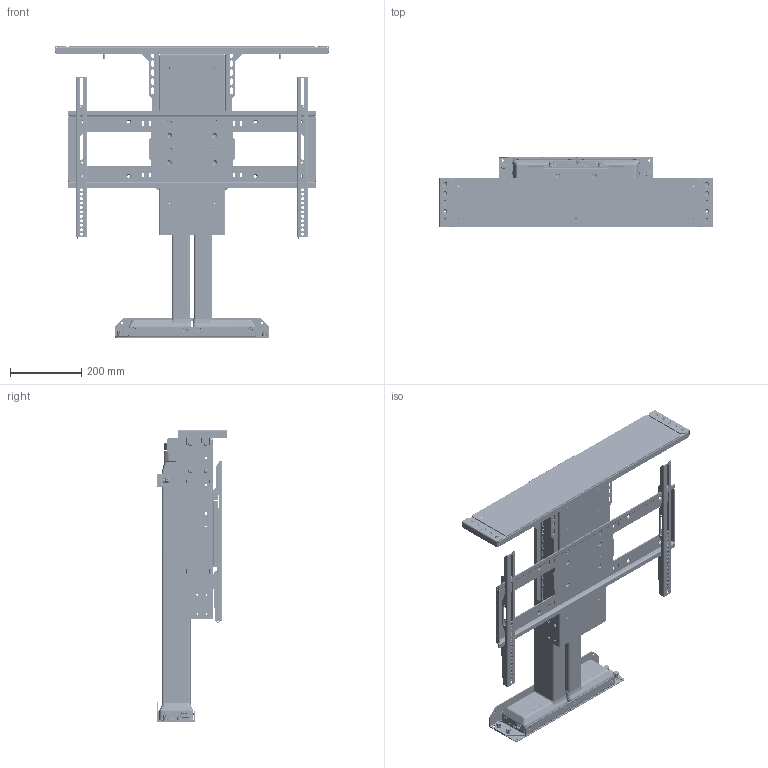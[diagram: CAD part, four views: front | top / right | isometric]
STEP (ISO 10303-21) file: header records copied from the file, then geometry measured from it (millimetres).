
FILE_DESCRIPTION(/* description */ ('STEP AP242','CAx-IF Rec.Pracs.---Representation and Presentation of Product Manufacturing Information (PMI)---4.0---2014-10-13','CAx-IF Rec.Pracs.---3D Tessellated Geometry---0.4---2014-09-14','2;1'),/* implementation_level */ '2;1');
FILE_NAME(/* name */ '65523b989b98ac61b84e0b72',/* time_stamp */ '2023-11-13T15:07:08Z',/* author */ (''),/* organization */ (''),/* preprocessor_version */ 'ST-DEVELOPER v19.4',/* originating_system */ ' ',/* authorisation */ ' ');
FILE_SCHEMA (('AP242_MANAGED_MODEL_BASED_3D_ENGINEERING_MIM_LF { 1 0 10303 442 1 1 4 }'));
Products named in the file (85): DL-65s (HD); ULS-NX-029 - HD Column Clamp; Hex socket countersunk head screw M6x1 x 12; Socket button head screw M6x1 x 12; WDS8151-215; Socket button head screw M6x1 x 16; L65 PS Adapter; ULS-NX-032 - HD Quick Release LC Mount; Lift Column H <2>; L45 LC Inner Profile; L45 LC Motor Housing; L45 LC Middle Profile; Lift Column H <1>; SBP & VMB <1>; ULS-NX-017 - UL SCREEN BACK PLATE; PZ Pan head screw M5x0.80 x 25; ULS-NX-118 - UL VMB WELDMENT <1>; VMB Washer; 90107A012; PEM BSO-632-10  ZI; ULS-NX-020 - UL SCREEN LOCK; ULS-NX-019 - UL LEVEL ADJUSTMENT PLATE; Socket button head cap screw #6-32 x 0.188; ULS-NX-018 - UL VERICAL MOUNTING BAR; ULS-NX-118 - UL VMB WELDMENT <2>; ULS-NX-030 - HD REAR SUPPORT w/ PEMs <1>; PEM FHS-M6-12  ; ULS-NX-030 - HD Rear Support; ULS-NX-031 - HD QUICK RELEASE BASE MOUNT w/ PEMS <1>; ULS-NX-031 - HD QUICK RELEASE BASE MOUNT; L-65 HD Lid Plate Assembly w/ Lid Supports <1>; ULS-NX-039 - ULS HD LID SUPPORT w/ PEMs <1>; PEM CLS-M6-00  ; ULS-NX-039 -- ULS HD LID SUPPORT; ULS-NX-039 - ULS HD LID SUPPORT w/ PEMs <2>; L-65 HD Lid Plate Assembly w/ Lid Adapter <1>; PEM FH-M6-18  ZI; PEM S-M6-1  ZI; Hex socket countersunk head screw M6x1 x 10; Plain washer extra large grade C M6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
Assembly tree (248 placements, depth 5):
  DL-65s (HD)
    ULS-NX-029 - HD Column Clamp
    Hex socket countersunk head screw M6x1 x 12  x17
    Socket button head screw M6x1 x 12  x8
    WDS8151-215  x6
    Socket button head screw M6x1 x 16  x4
    L65 PS Adapter
    ULS-NX-032 - HD Quick Release LC Mount
    Lift Column H <2>
      L45 LC Inner Profile
      L45 LC Motor Housing
      L45 LC Middle Profile
    Lift Column H <1>
      L45 LC Middle Profile
      L45 LC Motor Housing
      L45 LC Inner Profile
    SBP & VMB <1>
      ULS-NX-017 - UL SCREEN BACK PLATE
      PZ Pan head screw M5x0.80 x 25  x2
      ULS-NX-118 - UL VMB WELDMENT <1>
        VMB Washer  x4
        90107A012  x2
        PEM BSO-632-10  ZI  x2
        ULS-NX-020 - UL SCREEN LOCK
        ULS-NX-019 - UL LEVEL ADJUSTMENT PLATE
        Socket button head cap screw #6-32 x 0.188  x2
        ULS-NX-018 - UL VERICAL MOUNTING BAR
      ULS-NX-118 - UL VMB WELDMENT <2>
        PEM BSO-632-10  ZI  x2
        ULS-NX-019 - UL LEVEL ADJUSTMENT PLATE
        VMB Washer  x4
        Socket button head cap screw #6-32 x 0.188  x2
        90107A012  x2
        ULS-NX-020 - UL SCREEN LOCK
        ULS-NX-018 - UL VERICAL MOUNTING BAR
    ULS-NX-030 - HD REAR SUPPORT w/ PEMs <1>
      PEM FHS-M6-12    x2
      ULS-NX-030 - HD Rear Support
    ULS-NX-031 - HD QUICK RELEASE BASE MOUNT w/ PEMS <1>
      PEM FHS-M6-12    x4
      ULS-NX-031 - HD QUICK RELEASE BASE MOUNT
    L-65 HD Lid Plate Assembly w/ Lid Supports <1>
      Hex socket countersunk head screw M6x1 x 12  x4
      ULS-NX-039 - ULS HD LID SUPPORT w/ PEMs <1>
        PEM CLS-M6-00    x2
        ULS-NX-039 -- ULS HD LID SUPPORT
      ULS-NX-039 - ULS HD LID SUPPORT w/ PEMs <2>
        PEM CLS-M6-00    x2
        ULS-NX-039 -- ULS HD LID SUPPORT
      L-65 HD Lid Plate Assembly w/ Lid Adapter <1>
        PEM FH-M6-18  ZI  x4
        PEM S-M6-1  ZI  x6
        Hex socket countersunk head screw M6x1 x 10  x4
        Plain washer extra large grade C M6  x4
        97069A106_Zinc-Plated Steel Spring Lock Washer  x4
        Hex thin nut grade A & B M6  x4
        L-85 TOP PLATE EXTENSION REV B (L85-LM-057)  x2
        NEX-LM-032 -- LID PIN GUIDE  x2
        L-85 TOP PLATE REV C (L85-LM-056)
        L85-LM-058 - Lid Adapter Plate Rev F <1>
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Bounding box: 768.1 x 198.85 x 820.61 mm (x, y, z)
Volume: 17200478.1 mm3; surface area: 3134096.7 mm2
Topology: 232 solids, 232 shells, 12524 faces, 32600 edges, 20993 vertices
Faces by surface type: plane 7418, cylinder 3083, cone 1032, bspline 619, torus 314, sphere 58
Full cylindrical faces by diameter (mm): 1.194 x2, 1.208 x1, 1.473 x3, 1.552 x1, 1.575 x2, 1.6 x2, 1.956 x8, 2.235 x1, 2.642 x4, 2.794 x1, 3.048 x2, 3.175 x1, 3.505 x7, 3.683 x1, 4 x8, 4.496 x6, 4.6 x4, 4.75 x1, 4.917 x56, 5 x46, 5.026 x4, 5.08 x4, 5.277 x8, 5.3 x12, 5.385 x12, 5.41 x8, 5.6 x8, 5.944 x4, 5.994 x4, 6 x97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
Entity records: 141980 total; most frequent: CARTESIAN_POINT 36634, DIRECTION 20668, ORIENTED_EDGE 19886, EDGE_CURVE 9943, AXIS2_PLACEMENT_3D 7475, VERTEX_POINT 6706, LINE 5718, VECTOR 5718
